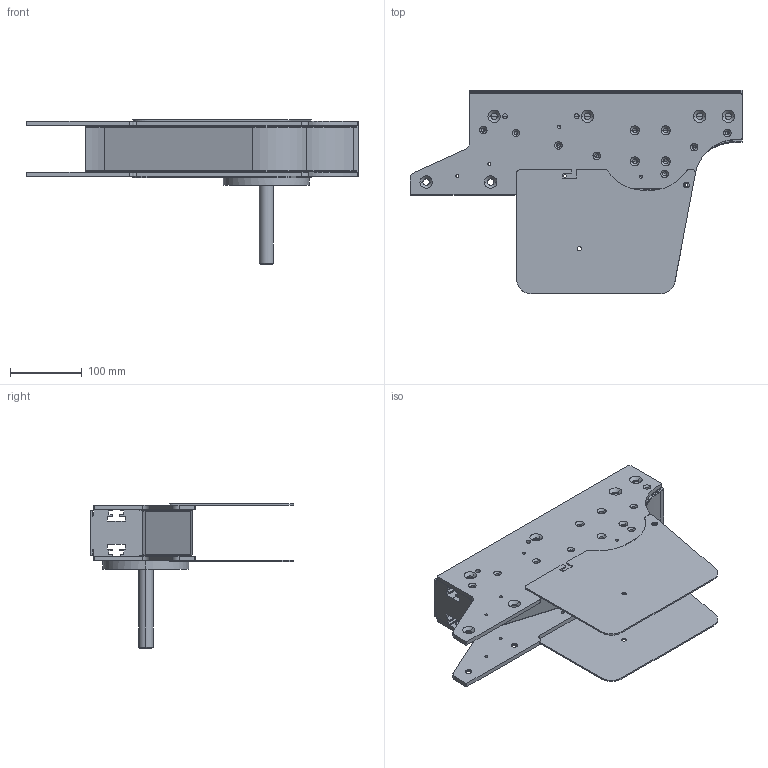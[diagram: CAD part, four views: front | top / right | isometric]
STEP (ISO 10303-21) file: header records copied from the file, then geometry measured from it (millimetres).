
FILE_DESCRIPTION (( 'STEP AP214' ), '1' );
FILE_NAME ('FSID DD 0L.step', '2017-04-07T11:09:32', ( '' ), ( '' ), 'SwSTEP 2.0', 'SolidWorks 2016', '' );
FILE_SCHEMA (( 'AUTOMOTIVE_DESIGN' ));
Length unit declared in the file: millimetre
Products named in the file (1): FSID DD 0L
Bounding box: 462.8 x 283.51 x 201.4 mm (x, y, z)
Volume: 3251815.5 mm3; surface area: 605396.2 mm2
Topology: 5 solids, 5 shells, 549 faces, 1423 edges, 870 vertices
Faces by surface type: cylinder 272, cone 136, plane 129, torus 12
Entity records: 17619 total; most frequent: DIRECTION 3125, CARTESIAN_POINT 2791, ORIENTED_EDGE 2742, EDGE_CURVE 1371, AXIS2_PLACEMENT_3D 1204, VERTEX_POINT 870, LINE 717, VECTOR 717
